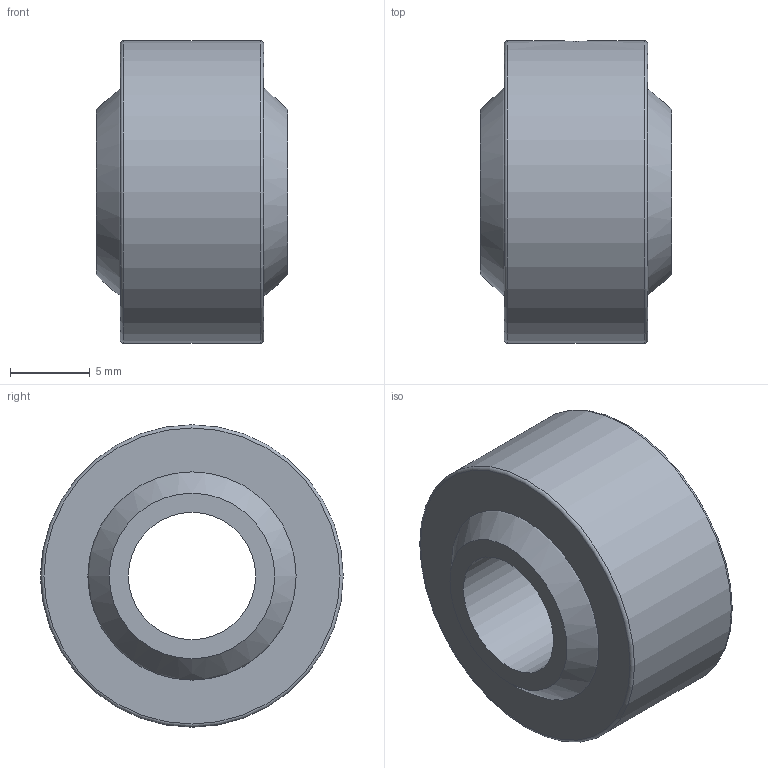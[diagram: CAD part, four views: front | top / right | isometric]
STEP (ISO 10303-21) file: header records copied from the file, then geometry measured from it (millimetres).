
FILE_DESCRIPTION( ( 'STEP AP203' ), '1' );
FILE_NAME( 'C:/Temp/Ganter_Step_05_03_2020/data/3_6/gn_648_8/gn_648_8_n/Ball joint GN 648.8-8-19-N.stp', '2020-03-12T14:14:23', ( 'License CC BY-ND 4.0' ), ( 'CADENAS' ), ' ', 'PARTsolutions', ' ' );
FILE_SCHEMA( ( 'CONFIG_CONTROL_DESIGN' ) );
Length unit declared in the file: millimetre
Products named in the file (3): Ball joint GN 648.8-8-19-N; _Ball joint GN 648.8-8-19-N-2; _Ball joint GN 648.8-8-19-N-1
Assembly tree (2 placements, depth 2):
  Ball joint GN 648.8-8-19-N
    _Ball joint GN 648.8-8-19-N-2
    _Ball joint GN 648.8-8-19-N-1
Bounding box: 12 x 19 x 19 mm (x, y, z)
Volume: 2276.6 mm3; surface area: 2247.7 mm2
Topology: 2 solids, 2 shells, 11 faces, 20 edges, 13 vertices
Faces by surface type: plane 4, cylinder 3, sphere 2, torus 2
Full cylindrical faces by diameter (mm): 1.7 x1, 8 x1, 19 x1
Entity records: 382 total; most frequent: CARTESIAN_POINT 69, DIRECTION 50, AXIS2_PLACEMENT_3D 25, EDGE_LOOP 24, ORIENTED_EDGE 24, FACE_OUTER_BOUND 18, CC_DESIGN_PERSON_AND_ORGANIZATION_ASSIGNMENT 13, EDGE_CURVE 12
